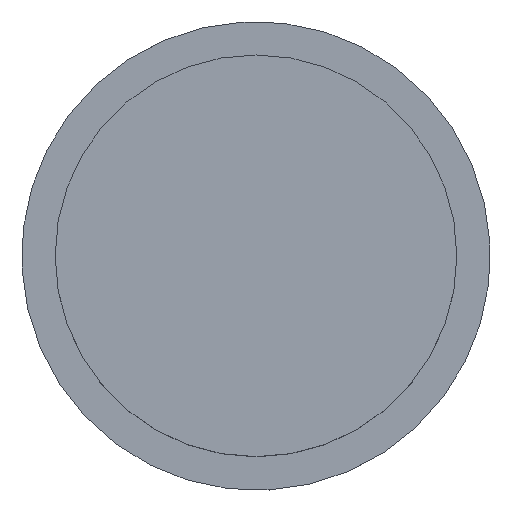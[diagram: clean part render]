
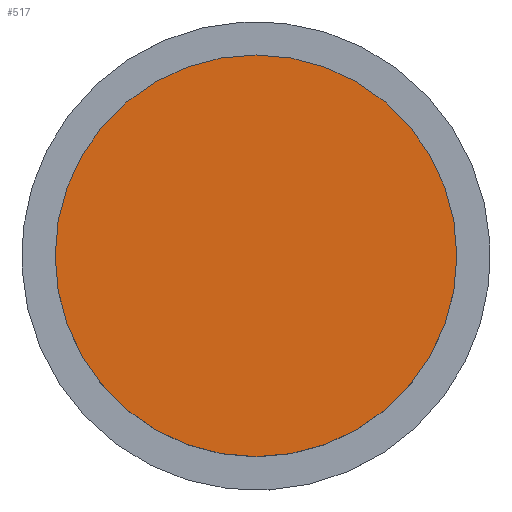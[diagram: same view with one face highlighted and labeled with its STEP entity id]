
A CAD part, top view. The second image highlights one B-rep face of the part: STEP entity #517.
In plain terms, the highlighted planar face has unit normal (0, 0, 1).
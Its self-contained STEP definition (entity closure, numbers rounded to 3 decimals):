
#120=FACE_OUTER_BOUND('',#166,.T.);
#166=EDGE_LOOP('',(#400));
#215=CIRCLE('',#611,60.);
#257=VERTEX_POINT('',#953);
#307=EDGE_CURVE('',#257,#257,#215,.T.);
#400=ORIENTED_EDGE('',*,*,#307,.T.);
#489=PLANE('',#610);
#517=ADVANCED_FACE('',(#120),#489,.F.);
#610=AXIS2_PLACEMENT_3D('',#952,#742,#743);
#611=AXIS2_PLACEMENT_3D('',#954,#744,#745);
#742=DIRECTION('center_axis',(0.,0.,
-1.));
#743=DIRECTION('ref_axis',(0.,1.,0.));
#744=DIRECTION('center_axis',(0.,0.,
1.));
#745=DIRECTION('ref_axis',(0.,-1.,0.));
#952=CARTESIAN_POINT('Origin',(0.,0.,
1732.05));
#953=CARTESIAN_POINT('',(0.,60.,1732.05));
#954=CARTESIAN_POINT('Origin',(0.,0.,
1732.05));
